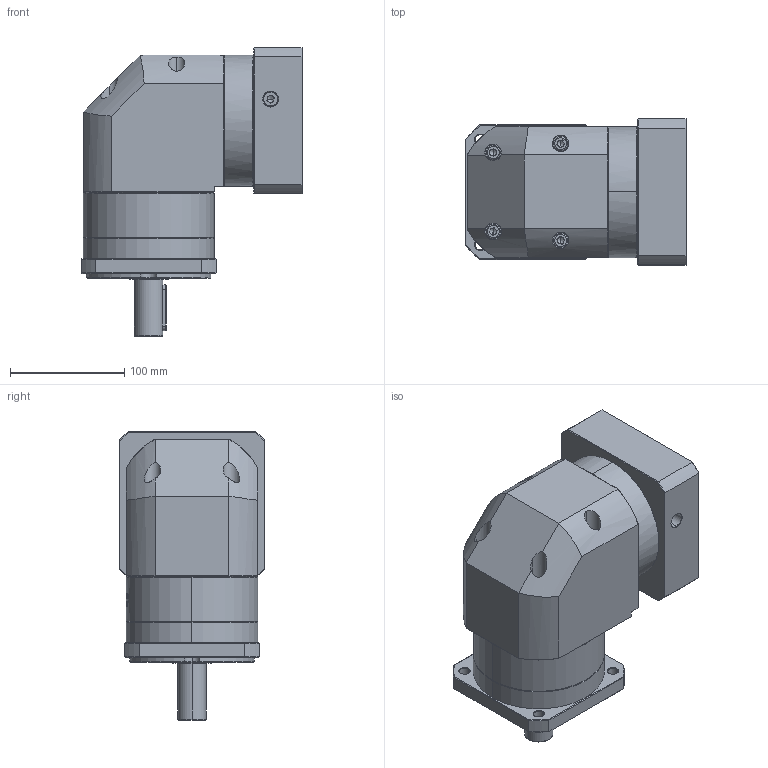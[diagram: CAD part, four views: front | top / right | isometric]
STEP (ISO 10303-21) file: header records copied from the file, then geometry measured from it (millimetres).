
FILE_DESCRIPTION (( 'STEP AP214' ), '1' );
FILE_NAME ('ZFR120A-D25-L1-P2-22-110-145-M8.step', '2023-08-27T08:01:31', ( '' ), ( '' ), 'SwSTEP 2.0', 'SolidWorks 2016', '' );
FILE_SCHEMA (( 'AUTOMOTIVE_DESIGN' ));
Length unit declared in the file: millimetre
Products named in the file (1): ZFR120A-D25-L1-P2-22-110-145-M8
Bounding box: 193.9 x 128 x 253 mm (x, y, z)
Volume: 2976855.1 mm3; surface area: 251103.3 mm2
Topology: 6 solids, 6 shells, 2266 faces, 5975 edges, 3814 vertices
Faces by surface type: plane 1061, cylinder 434, bspline 425, cone 338, torus 8
Entity records: 124147 total; most frequent: CARTESIAN_POINT 48749, ORIENTED_EDGE 11890, DIRECTION 8619, EDGE_CURVE 5945, VERTEX_POINT 3814, LINE 3159, VECTOR 3159, AXIS2_PLACEMENT_3D 2730
